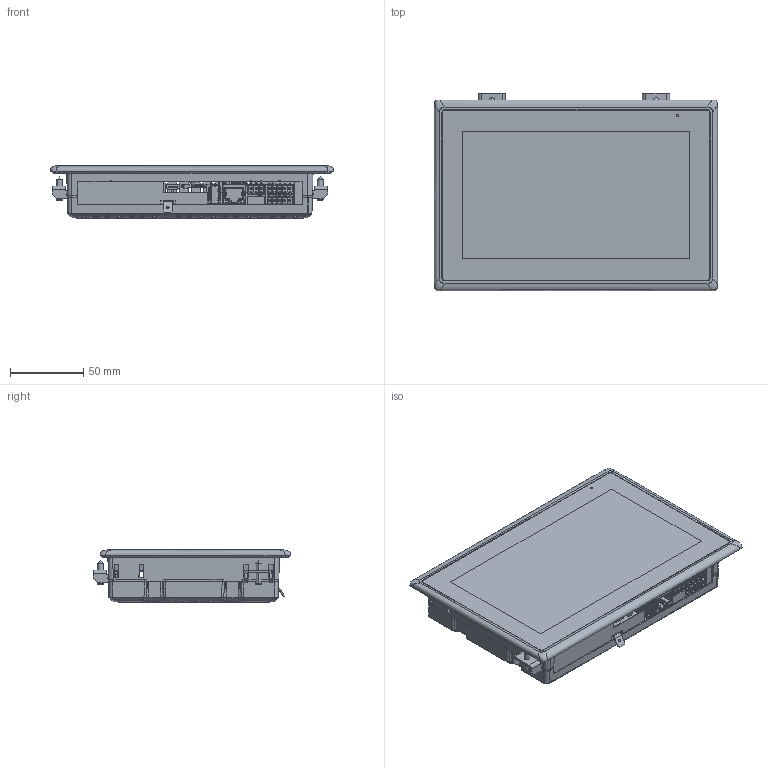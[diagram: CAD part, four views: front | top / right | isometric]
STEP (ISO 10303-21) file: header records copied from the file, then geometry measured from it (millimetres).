
FILE_DESCRIPTION (( 'STEP AP214' ), '1' );
FILE_NAME ('ET0710 (01-235-0710) Export2025-11-06.STEP', '2025-11-06T08:53:30', ( '' ), ( '' ), 'SwSTEP 2.0', 'SolidWorks 2024', '' );
FILE_SCHEMA (( 'AUTOMOTIVE_DESIGN' ));
Length unit declared in the file: millimetre
Products named in the file (1): ET0710 (01-235-0710) Export2025-11-06
Bounding box: 193 x 134.59 x 35.5 mm (x, y, z)
Volume: 203768 mm3; surface area: 226075.2 mm2
Topology: 40 solids, 42 shells, 6080 faces, 16398 edges, 10424 vertices
Faces by surface type: plane 3915, cylinder 940, bspline 929, cone 255, torus 27, sphere 14
Entity records: 231682 total; most frequent: CARTESIAN_POINT 85737, ORIENTED_EDGE 32752, DIRECTION 26069, EDGE_CURVE 16376, LINE 11863, VECTOR 11863, VERTEX_POINT 10422, AXIS2_PLACEMENT_3D 7103
